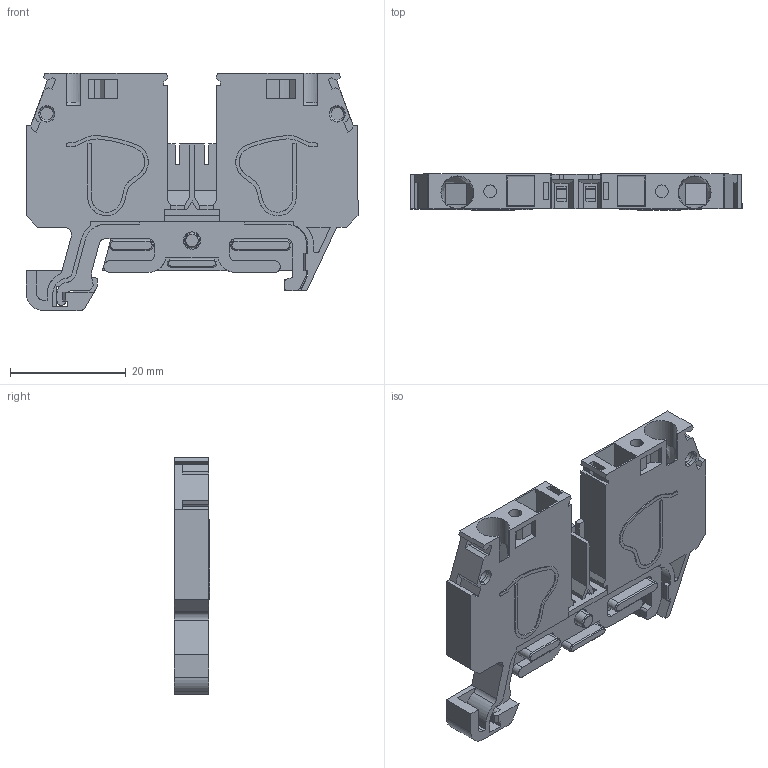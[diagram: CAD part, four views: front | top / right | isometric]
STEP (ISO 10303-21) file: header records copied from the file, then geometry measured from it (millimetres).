
FILE_DESCRIPTION (( 'STEP AP214' ), '1' );
FILE_NAME ('42454_EURO QE_4_35.STEP', '2021-03-26T10:54:13', ( '' ), ( '' ), 'SwSTEP 2.0', 'SolidWorks 2020', '' );
FILE_SCHEMA (( 'AUTOMOTIVE_DESIGN' ));
Length unit declared in the file: millimetre
Products named in the file (1): 42454_EURO QE_4_35
Bounding box: 57.4 x 6.2 x 41 mm (x, y, z)
Volume: 8205.5 mm3; surface area: 7418.3 mm2
Topology: 1 solids, 1 shells, 460 faces, 1310 edges, 861 vertices
Faces by surface type: plane 316, cylinder 116, bspline 16, cone 12
Entity records: 16637 total; most frequent: CARTESIAN_POINT 4925, ORIENTED_EDGE 2620, DIRECTION 2124, EDGE_CURVE 1310, LINE 994, VECTOR 994, VERTEX_POINT 861, AXIS2_PLACEMENT_3D 565
